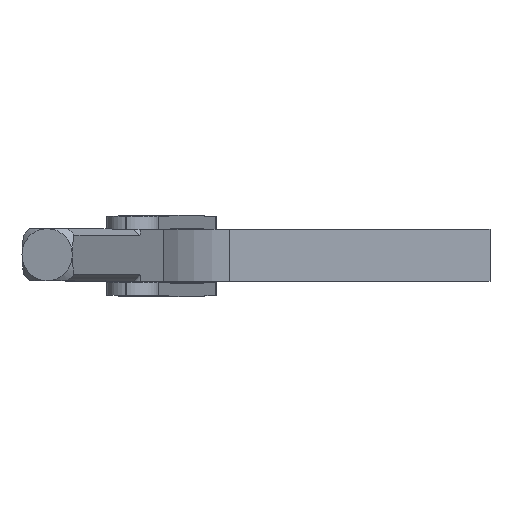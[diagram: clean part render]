
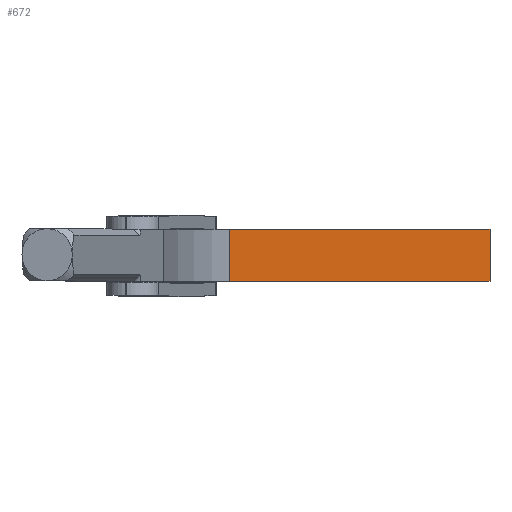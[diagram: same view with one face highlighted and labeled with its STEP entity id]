
A CAD part, top view. The second image highlights one B-rep face of the part: STEP entity #672.
In plain terms, the highlighted planar face has unit normal (0, 0, 1).
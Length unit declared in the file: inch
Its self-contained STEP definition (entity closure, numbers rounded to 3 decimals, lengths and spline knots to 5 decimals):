
#178=LINE('',#3263,#359);
#201=LINE('',#3342,#382);
#221=LINE('',#3434,#402);
#222=LINE('',#3436,#403);
#359=VECTOR('',#2644,1.);
#382=VECTOR('',#2699,1.);
#402=VECTOR('',#2775,1.);
#403=VECTOR('',#2778,1.);
#672=ADVANCED_FACE('',(#874),#783,.T.);
#783=PLANE('',#2377);
#874=FACE_OUTER_BOUND('',#1010,.T.);
#1010=EDGE_LOOP('',(#1372,#1373,#1374,#1375));
#1372=ORIENTED_EDGE('',*,*,#2034,.T.);
#1373=ORIENTED_EDGE('',*,*,#2001,.F.);
#1374=ORIENTED_EDGE('',*,*,#2035,.F.);
#1375=ORIENTED_EDGE('',*,*,#1967,.T.);
#1747=VERTEX_POINT('',#3262);
#1748=VERTEX_POINT('',#3264);
#1775=VERTEX_POINT('',#3341);
#1776=VERTEX_POINT('',#3343);
#1967=EDGE_CURVE('',#1748,#1747,#178,.T.);
#2001=EDGE_CURVE('',#1775,#1776,#201,.T.);
#2034=EDGE_CURVE('',#1747,#1776,#221,.T.);
#2035=EDGE_CURVE('',#1748,#1775,#222,.T.);
#2377=AXIS2_PLACEMENT_3D('',#3437,#2779,#2780);
#2644=DIRECTION('',(-1.,0.,0.));
#2699=DIRECTION('',(-1.,0.,0.));
#2775=DIRECTION('',(0.,-1.,0.));
#2778=DIRECTION('',(0.,-1.,0.));
#2779=DIRECTION('',(0.,0.,1.));
#2780=DIRECTION('',(0.,-1.,0.));
#3262=CARTESIAN_POINT('',(2.99998,0.5,5.25001));
#3263=CARTESIAN_POINT('',(7.99998,0.5,5.25001));
#3264=CARTESIAN_POINT('',(7.99998,0.5,5.25001));
#3341=CARTESIAN_POINT('',(7.99998,-0.5,5.25001));
#3342=CARTESIAN_POINT('',(7.99998,-0.5,5.25001));
#3343=CARTESIAN_POINT('',(2.99998,-0.5,5.25001));
#3434=CARTESIAN_POINT('',(2.99998,0.5,5.25001));
#3436=CARTESIAN_POINT('',(7.99998,0.5,5.25001));
#3437=CARTESIAN_POINT('',(7.99998,0.5,5.25001));
